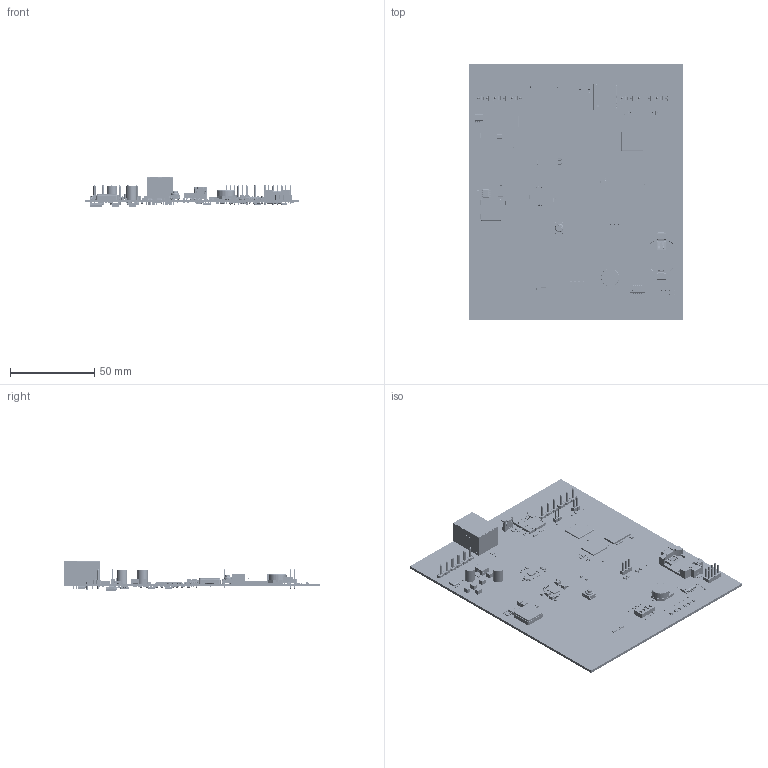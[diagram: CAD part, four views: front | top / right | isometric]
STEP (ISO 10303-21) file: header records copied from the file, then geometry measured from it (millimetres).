
FILE_DESCRIPTION(('Open CASCADE Model'),'2;1');
FILE_NAME('Open CASCADE Shape Model','2024-03-27T15:34:46',('Author'),( 'Open CASCADE'),'Open CASCADE STEP processor 7.5','Open CASCADE 7.5' ,'Unknown');
FILE_SCHEMA(('AUTOMOTIVE_DESIGN { 1 0 10303 214 1 1 1 1 }'));
Length unit declared in the file: millimetre
Products named in the file (667): PCB; Board; Open CASCADE STEP translator 7.5 3.1.1; R1215; 5696080032; Mid_Body; Terminal; Open CASCADE STEP translator 6.8 1.2.1; Mark; R1247; 5696083552; R1248; 5696081712; R1426; R1425; R1424; R1423; D802; SOT-23_J; R712; R711; D800; C418; 5696083232; Open CASCADE STEP translator 6.8 3.1.1; Open CASCADE STEP translator 6.8 3.1.2; Open CASCADE STEP translator 6.8 3.2.1; D1002; SOD-323; D1001; R805; R710; R1301; 5696079792; R1300; L403; IND2520; 10557516496; Extruded; C417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
Assembly tree (1386 placements, depth 5):
  PCB
    Board
      Open CASCADE STEP translator 7.5 3.1.1
    R1215
      5696080032
        Mid_Body
        Terminal  x2
          Open CASCADE STEP translator 6.8 1.2.1
        Mark
    R1247
      5696083552
        Mid_Body
        Terminal  x2
          Open CASCADE STEP translator 6.8 1.2.1
        Mark
    R1248
      5696081712
        Mid_Body
        Terminal  x2
          Open CASCADE STEP translator 6.8 1.2.1
        Mark
    R1426
      5696080032
        Mid_Body
        Terminal  x2
          Open CASCADE STEP translator 6.8 1.2.1
        Mark
    R1425
      5696080032
        Mid_Body
        Terminal  x2
          Open CASCADE STEP translator 6.8 1.2.1
        Mark
    R1424
      5696080032
        Mid_Body
        Terminal  x2
          Open CASCADE STEP translator 6.8 1.2.1
        Mark
    R1423
      5696080032
        Mid_Body
        Terminal  x2
          Open CASCADE STEP translator 6.8 1.2.1
        Mark
    D802
      SOT-23_J
    R712
      5696080032
        Mid_Body
        Terminal  x2
          Open CASCADE STEP translator 6.8 1.2.1
        Mark
    R711
      5696083552
        Mid_Body
        Terminal  x2
          Open CASCADE STEP translator 6.8 1.2.1
        Mark
    D800
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Bounding box: 127 x 152.58 x 17.61 mm (x, y, z)
Volume: 38218.2 mm3; surface area: 56336.1 mm2
Topology: 2018 solids, 2025 shells, 24948 faces, 59897 edges, 36812 vertices
Faces by surface type: plane 15217, cylinder 5385, sphere 2113, bspline 1975, torus 105, cone 97, extrusion 48, revolution 8
Full cylindrical faces by diameter (mm): 0.15 x1, 0.262 x2, 0.27 x56, 0.272 x1, 0.309 x2, 0.5 x6, 0.6 x1, 0.748 x1, 1.5 x1, 2.485 x2, 3.05 x1, 4.7 x1, 6.3 x2, 10.7 x1
Entity records: 310473 total; most frequent: CARTESIAN_POINT 69892, ORIENTED_EDGE 43749, DIRECTION 42073, EDGE_CURVE 21876, VECTOR 15879, LINE 15855, VERTEX_POINT 14123, AXIS2_PLACEMENT_3D 13093
